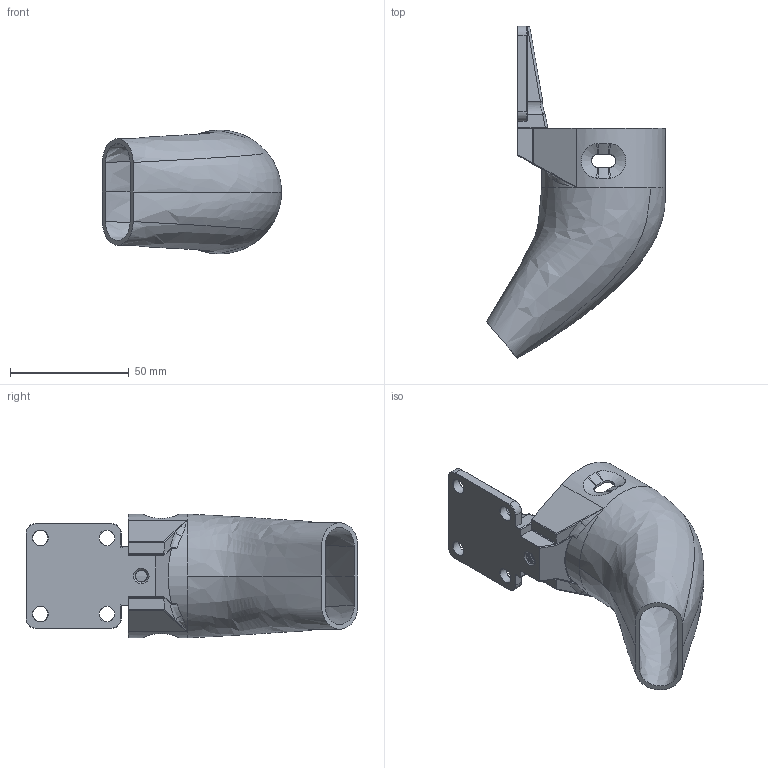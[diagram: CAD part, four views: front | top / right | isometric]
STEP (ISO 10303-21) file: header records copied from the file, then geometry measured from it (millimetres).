
FILE_DESCRIPTION(/* description */ (''),/* implementation_level */ '2;1');
FILE_NAME(/* name */ 'Hose Clamp Nozzle 2 v5.step',/* time_stamp */ '2025-10-28T15:54:28-05:00',/* author */ (''),/* organization */ (''),/* preprocessor_version */ 'ST-DEVELOPER v20.1',/* originating_system */ 'Autodesk Translation Framework v14.17.0.0',/* authorisation */ '');
FILE_SCHEMA (('AUTOMOTIVE_DESIGN { 1 0 10303 214 3 1 1 }'));
Length unit declared in the file: millimetre
Products named in the file (1): Hose Clamp Nozzle (1) (v2~recovered)
Bounding box: 75.25 x 139.51 x 52 mm (x, y, z)
Volume: 70578.7 mm3; surface area: 35253.9 mm2
Topology: 2 solids, 2 shells, 223 faces, 604 edges, 377 vertices
Faces by surface type: plane 71, bspline 66, cylinder 64, cone 20, sphere 2
Full cylindrical faces by diameter (mm): 5.035 x6, 6.147 x4, 6.4 x4, 52 x1
Entity records: 13175 total; most frequent: CARTESIAN_POINT 8059, ORIENTED_EDGE 1196, DIRECTION 838, EDGE_CURVE 598, VERTEX_POINT 377, AXIS2_PLACEMENT_3D 296, LINE 246, VECTOR 246
